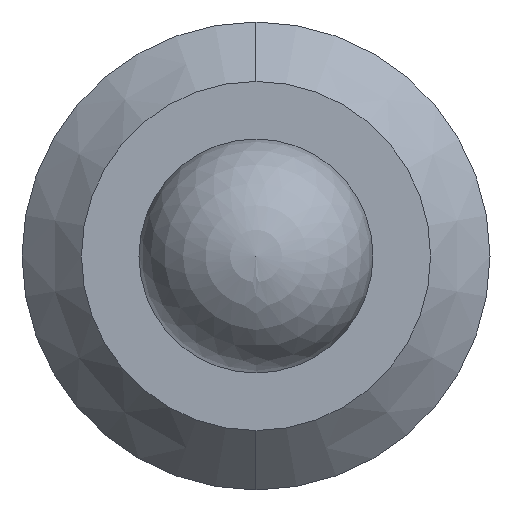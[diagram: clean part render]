
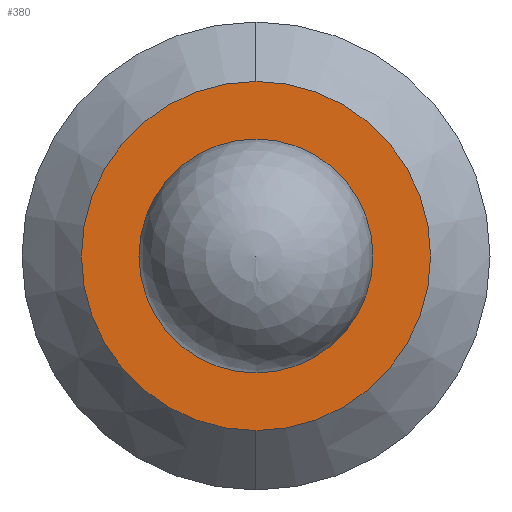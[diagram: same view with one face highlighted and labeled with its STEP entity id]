
A CAD part, left-side view. The second image highlights one B-rep face of the part: STEP entity #380.
In plain terms, the highlighted planar face has unit normal (-1, 0, 0).
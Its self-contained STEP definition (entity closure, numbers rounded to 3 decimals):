
#30 = CARTESIAN_POINT ( 'NONE',  ( 0., 0., 0. ) ) ;
#43 = AXIS2_PLACEMENT_3D ( 'NONE', #319, #317, #315 ) ;
#47 = CIRCLE ( 'NONE', #124, 0.5 ) ;
#53 = EDGE_CURVE ( 'NONE', #603, #321, #47, .T. ) ;
#62 = CARTESIAN_POINT ( 'NONE',  ( 0., 0., 0.5 ) ) ;
#70 = AXIS2_PLACEMENT_3D ( 'NONE', #98, #96, #92 ) ;
#76 = EDGE_CURVE ( 'NONE', #242, #524, #565, .T. ) ;
#80 = CIRCLE ( 'NONE', #70, 0.5 ) ;
#92 = DIRECTION ( 'NONE',  ( 0., 0., 1. ) ) ;
#96 = DIRECTION ( 'NONE',  ( -1., 0., 0. ) ) ;
#98 = CARTESIAN_POINT ( 'NONE',  ( 0., 0., 0. ) ) ;
#113 = EDGE_LOOP ( 'NONE', ( #387, #385 ) ) ;
#124 = AXIS2_PLACEMENT_3D ( 'NONE', #30, #418, #423 ) ;
#146 = CARTESIAN_POINT ( 'NONE',  ( 0., 0., -0.746 ) ) ;
#166 = EDGE_LOOP ( 'NONE', ( #382, #370 ) ) ;
#242 = VERTEX_POINT ( 'NONE', #331 ) ;
#247 = DIRECTION ( 'NONE',  ( 0., 0., -1. ) ) ;
#248 = DIRECTION ( 'NONE',  ( 1., 0., 0. ) ) ;
#255 = CARTESIAN_POINT ( 'NONE',  ( 0., 0., 0. ) ) ;
#257 = PLANE ( 'NONE',  #428 ) ;
#273 = EDGE_CURVE ( 'NONE', #524, #242, #279, .T. ) ;
#279 = CIRCLE ( 'NONE', #43, 0.746 ) ;
#289 = CARTESIAN_POINT ( 'NONE',  ( 0., 0., -0.5 ) ) ;
#315 = DIRECTION ( 'NONE',  ( 0., 0., -1. ) ) ;
#317 = DIRECTION ( 'NONE',  ( -1., 0., 0. ) ) ;
#319 = CARTESIAN_POINT ( 'NONE',  ( 0., 0., 0. ) ) ;
#321 = VERTEX_POINT ( 'NONE', #289 ) ;
#331 = CARTESIAN_POINT ( 'NONE',  ( 0., 0., 0.746 ) ) ;
#370 = ORIENTED_EDGE ( 'NONE', *, *, #76, .T. ) ;
#380 = ADVANCED_FACE ( 'NONE', ( #530, #518 ), #257, .F. ) ;
#382 = ORIENTED_EDGE ( 'NONE', *, *, #273, .T. ) ;
#385 = ORIENTED_EDGE ( 'NONE', *, *, #566, .F. ) ;
#387 = ORIENTED_EDGE ( 'NONE', *, *, #53, .F. ) ;
#418 = DIRECTION ( 'NONE',  ( -1., 0., 0. ) ) ;
#423 = DIRECTION ( 'NONE',  ( 0., 0., 1. ) ) ;
#428 = AXIS2_PLACEMENT_3D ( 'NONE', #255, #248, #247 ) ;
#445 = DIRECTION ( 'NONE',  ( 0., 0., -1. ) ) ;
#500 = AXIS2_PLACEMENT_3D ( 'NONE', #560, #532, #445 ) ;
#518 = FACE_OUTER_BOUND ( 'NONE', #166, .T. ) ;
#524 = VERTEX_POINT ( 'NONE', #146 ) ;
#530 = FACE_BOUND ( 'NONE', #113, .T. ) ;
#532 = DIRECTION ( 'NONE',  ( -1., 0., 0. ) ) ;
#560 = CARTESIAN_POINT ( 'NONE',  ( 0., 0., 0. ) ) ;
#565 = CIRCLE ( 'NONE', #500, 0.746 ) ;
#566 = EDGE_CURVE ( 'NONE', #321, #603, #80, .T. ) ;
#603 = VERTEX_POINT ( 'NONE', #62 ) ;
